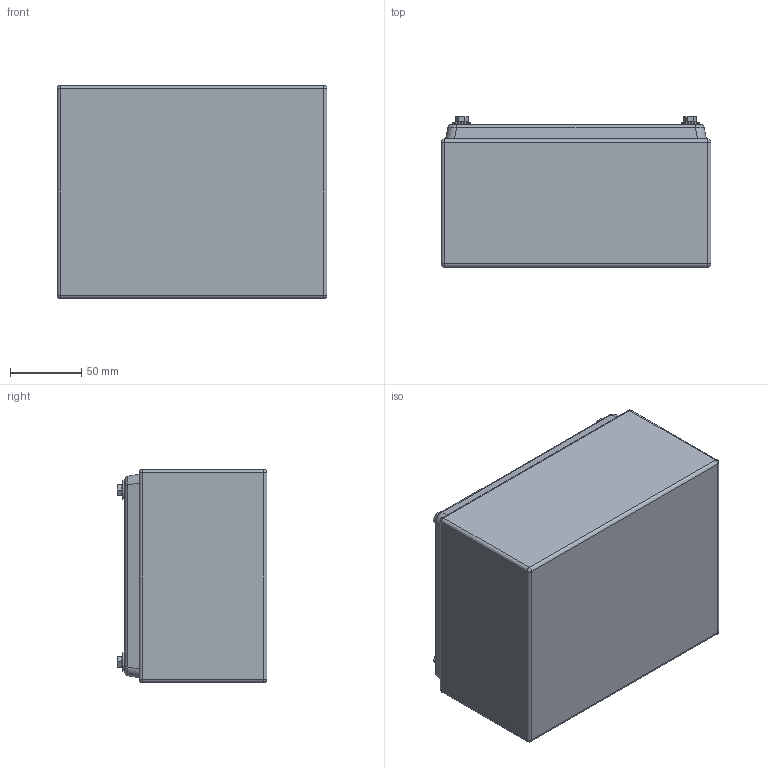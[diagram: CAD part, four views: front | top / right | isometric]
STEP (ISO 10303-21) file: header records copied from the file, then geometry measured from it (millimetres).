
FILE_DESCRIPTION (( 'STEP AP203' ), '1' );
FILE_NAME ('PE06-304A.STEP', '2021-02-23T14:37:18', ( '' ), ( '' ), 'SwSTEP 2.0', 'SolidWorks 2020', '' );
FILE_SCHEMA (( 'CONFIG_CONTROL_DESIGN' ));
Length unit declared in the file: millimetre
Products named in the file (1): PE06-304A
Bounding box: 190 x 105.6 x 150 mm (x, y, z)
Volume: 224710.7 mm3; surface area: 308101.8 mm2
Topology: 20 solids, 20 shells, 540 faces, 1315 edges, 840 vertices
Faces by surface type: plane 293, cylinder 195, cone 20, sphere 16, bspline 16
Entity records: 17196 total; most frequent: CARTESIAN_POINT 4380, DIRECTION 2647, ORIENTED_EDGE 2598, EDGE_CURVE 1299, AXIS2_PLACEMENT_3D 915, VERTEX_POINT 840, LINE 817, VECTOR 817
